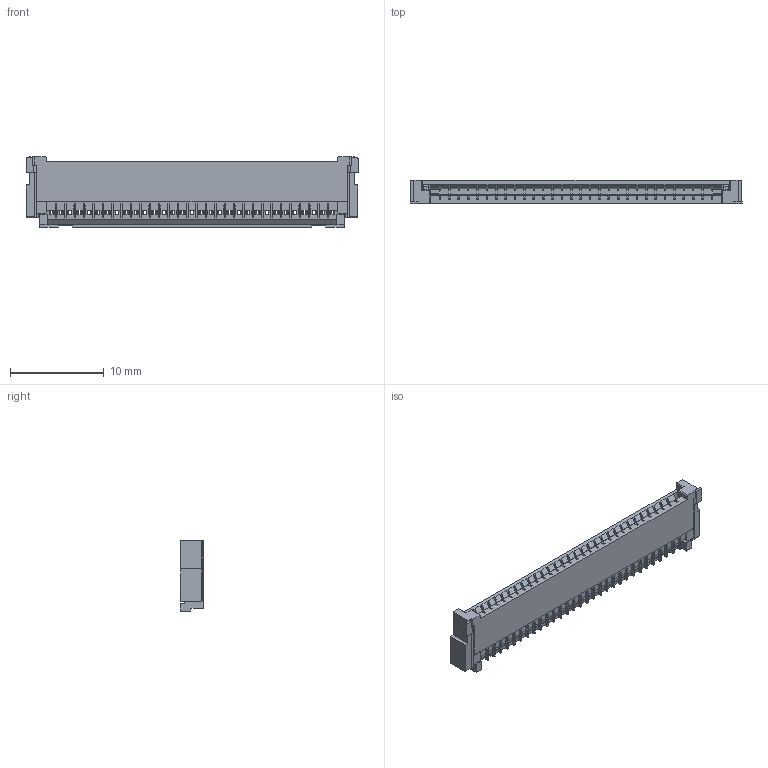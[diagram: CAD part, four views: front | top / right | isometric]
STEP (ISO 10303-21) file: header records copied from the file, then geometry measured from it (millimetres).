
FILE_DESCRIPTION((''),'2;1');
FILE_NAME('S-50698-032XX-XXX','2017-01-17T',('d29855'),(''),'CREO PARAMETRIC BY PTC INC, 2014500','CREO PARAMETRIC BY PTC INC, 2014500','');
FILE_SCHEMA(('CONFIG_CONTROL_DESIGN'));
Products named in the file (1): S-50698-032XX-XXX
Bounding box: 35.41 x 2.55 x 7.51 mm (x, y, z)
Volume: 368.2 mm3; surface area: 1602.7 mm2
Topology: 1 solids, 1 shells, 4568 faces, 13694 edges, 8894 vertices
Faces by surface type: plane 3587, cylinder 975, cone 4, bspline 2
Entity records: 153248 total; most frequent: CARTESIAN_POINT 28106, ORIENTED_EDGE 27388, DIRECTION 24792, EDGE_CURVE 13694, VECTOR 11348, LINE 11348, VERTEX_POINT 8894, AXIS2_PLACEMENT_3D 6722
